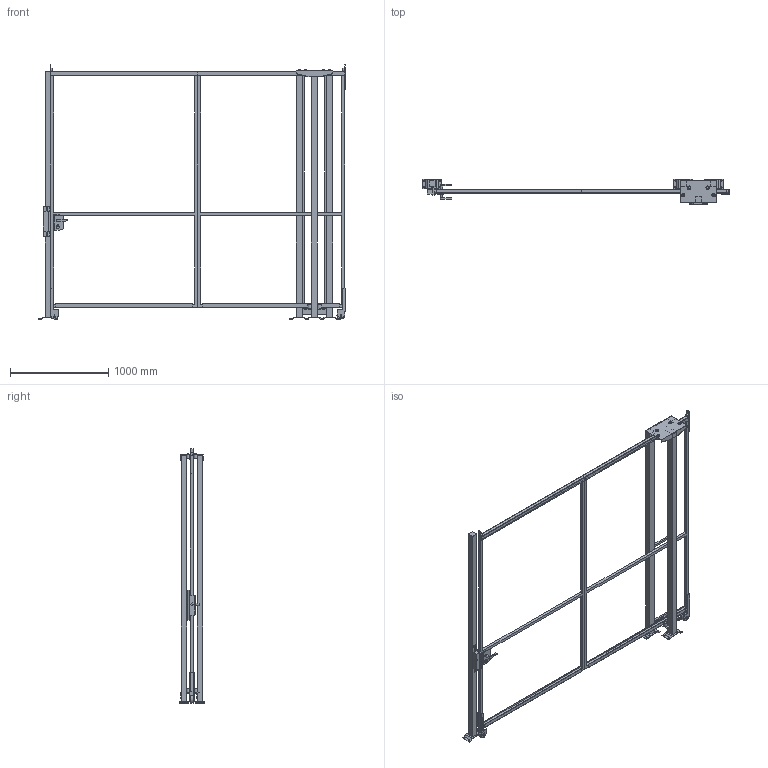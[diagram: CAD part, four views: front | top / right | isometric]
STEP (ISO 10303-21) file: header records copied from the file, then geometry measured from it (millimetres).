
FILE_DESCRIPTION(/* description */ (''),/* implementation_level */ '2;1');
FILE_NAME(/* name */ 'C:\SafeGuarding\ELABORATI\KLADKOUGAMMA_2025-03-21-12-02-47.stp',/* time_stamp */ '2025-03-21T12:02:49+01:00',/* author */ ('admin'),/* organization */ (''),/* preprocessor_version */ 'ST-DEVELOPER v18.1',/* originating_system */ 'AutoCAD Mechanical',/* authorisation */ '');
FILE_SCHEMA (('AUTOMOTIVE_DESIGN { 1 0 10303 214 3 1 1 }'));
Length unit declared in the file: millimetre
Products named in the file (4): Product; VFPA.REPE30.15002400; VFPA.REPE2002502400; P_VFMA.V260SDU.2520
Assembly tree (7 placements, depth 2):
  Product
    VFPA.REPE30.15002400  x2
    P_VFMA.V260SDU.2520  x4
    VFPA.REPE2002502400
Bounding box: 3125.92 x 264 x 2590.02 mm (x, y, z)
Volume: 59423157.4 mm3; surface area: 7517888.9 mm2
Topology: 55 solids, 55 shells, 554 faces, 1707 edges, 1670 vertices
Faces by surface type: plane 476, cylinder 74, bspline 4
Full cylindrical faces by diameter (mm): 9 x4, 11 x16, 13 x4, 18 x1, 25 x2, 25.398 x2, 30 x6, 36 x8, 80 x2
Entity records: 16055 total; most frequent: CARTESIAN_POINT 4199, DIRECTION 2366, ORIENTED_EDGE 2134, EDGE_CURVE 1067, LINE 1052, VECTOR 1052, VERTEX_POINT 718, AXIS2_PLACEMENT_3D 657
